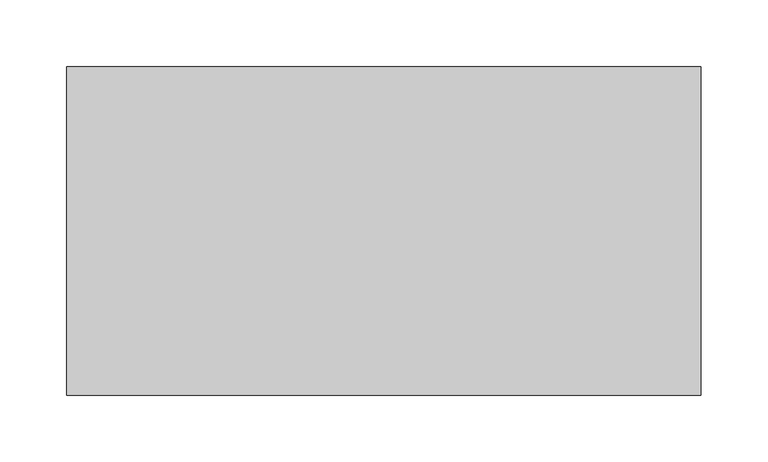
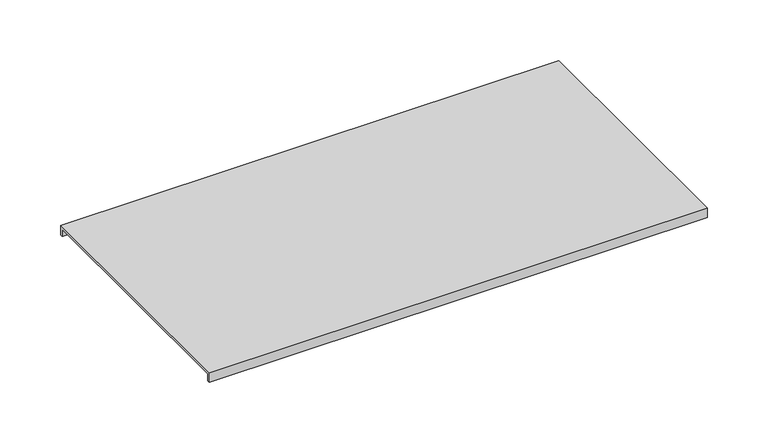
"""IFC4 building model written with IfcOpenShell, lengths in millimetres: cable carrier fitting geometry, ССT_Hyperline_FBTR-CVR-2000 Крышка для оптического лотка : Крышка для оптического лотка."""

from ifc_helpers import new_model, si_unit, frame, origin, place, context, project, spatial, polyline, outline, extrude, source, transform, mapped, element, save


def cable_carrier_fitting_9178dd5c(model_context):
    return source(origin(), model_context, "Body", "SweptSolid", [
        extrude(outline(polyline([(120.0, 50.0), (-120.0, 50.0), (-120.0, 43.0), (-122.54, 43.0), (-122.54, 52.54), (122.54, 52.54), (122.54, 43.0), (120.0, 43.0), (120.0, 50.0)])), frame((-293.7216999, 0.0, 0.0), z_axis=(1.0, 0.0, 0.0), x_axis=(0.0, 1.0, 0.0)), (0.0, 0.0, 1.0), 473.7216999),
    ])


if __name__ == "__main__":
    model = new_model("IFC4")
    model_context = context("Model", 3, world=origin())
    ifc_project = project(units=[si_unit("LENGTHUNIT", "METRE", prefix="MILLI")], contexts=[model_context])
    site = spatial("IfcSite", under=ifc_project)
    building = spatial("IfcBuilding", under=site)
    placement = place(None, origin())
    cable_carrier_fitting_shape = cable_carrier_fitting_9178dd5c(model_context)
    element("IfcCableCarrierFitting", 1, ObjectType="ССT_Hyperline_FBTR-CVR-2000 Крышка для оптического лотка : Крышка для оптического лотка", at=placement, inside=building, context=model_context, shape_type="MappedRepresentation", body=[
        mapped(cable_carrier_fitting_shape, transform((0.0, 0.0, 0.0), x_axis=(1.0, 0.0, 0.0), y_axis=(0.0, 1.0, 0.0), z_axis=(0.0, 0.0, 1.0))),
    ])
    save(model, "model.ifc")
